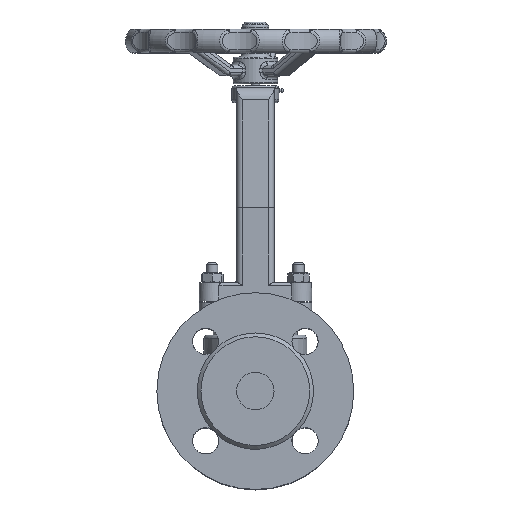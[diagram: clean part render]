
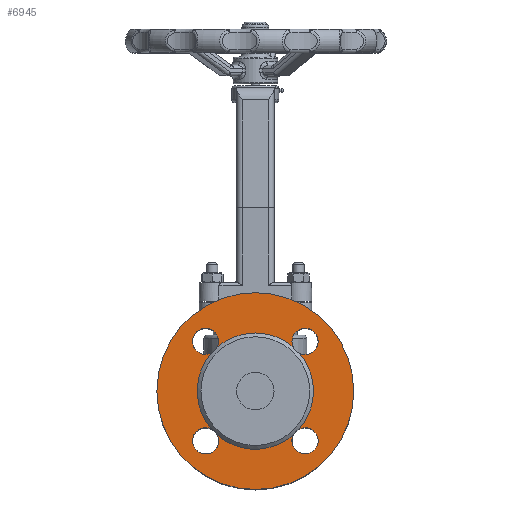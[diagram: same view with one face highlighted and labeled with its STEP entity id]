
A CAD part, top view. The second image highlights one B-rep face of the part: STEP entity #6945.
In plain terms, the highlighted planar face has unit normal (0, 0, 1).
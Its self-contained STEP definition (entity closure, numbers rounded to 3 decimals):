
#6945=ADVANCED_FACE('',(#14985,#14987),#14989,.F.);
#14985=FACE_BOUND('',#14986,.T.);
#14986=EDGE_LOOP('',(#21983));
#14987=FACE_BOUND('',#14988,.T.);
#14988=EDGE_LOOP('',(#21984,#21985,#21986,#21987,#21988,#21989,#21990,#21991,#21992,
#21993,#21994,#21995,#21996));
#14989=PLANE('',#14990);
#14990=AXIS2_PLACEMENT_3D('',#14991,#14992,#14993);
#14991=CARTESIAN_POINT('',(0.,0.,73.));
#14992=DIRECTION('',(0.,0.,-1.));
#14993=DIRECTION('',(0.,1.,0.));
#21983=ORIENTED_EDGE('',*,*,#24770,.T.);
#21984=ORIENTED_EDGE('',*,*,#24773,.T.);
#21985=ORIENTED_EDGE('',*,*,#24995,.F.);
#21986=ORIENTED_EDGE('',*,*,#24780,.T.);
#21987=ORIENTED_EDGE('',*,*,#24782,.T.);
#21988=ORIENTED_EDGE('',*,*,#24996,.F.);
#21989=ORIENTED_EDGE('',*,*,#24775,.T.);
#21990=ORIENTED_EDGE('',*,*,#24774,.T.);
#21991=ORIENTED_EDGE('',*,*,#24997,.F.);
#21992=ORIENTED_EDGE('',*,*,#24998,.F.);
#21993=ORIENTED_EDGE('',*,*,#24778,.T.);
#21994=ORIENTED_EDGE('',*,*,#24777,.T.);
#21995=ORIENTED_EDGE('',*,*,#24999,.F.);
#21996=ORIENTED_EDGE('',*,*,#24771,.T.);
#24770=EDGE_CURVE('',#28409,#28409,#28410,.T.);
#24771=EDGE_CURVE('',#28411,#28412,#28413,.T.);
#24773=EDGE_CURVE('',#28412,#28414,#28416,.T.);
#24774=EDGE_CURVE('',#28417,#28418,#28419,.T.);
#24775=EDGE_CURVE('',#28420,#28417,#28421,.T.);
#24777=EDGE_CURVE('',#28423,#28424,#28425,.T.);
#24778=EDGE_CURVE('',#28426,#28423,#28427,.T.);
#24780=EDGE_CURVE('',#28429,#28430,#28431,.T.);
#24782=EDGE_CURVE('',#28430,#28432,#28434,.T.);
#24995=EDGE_CURVE('',#28429,#28414,#28781,.T.);
#24996=EDGE_CURVE('',#28420,#28432,#28782,.T.);
#24997=EDGE_CURVE('',#28783,#28418,#28784,.T.);
#24998=EDGE_CURVE('',#28426,#28783,#28785,.T.);
#24999=EDGE_CURVE('',#28411,#28424,#28786,.T.);
#28409=VERTEX_POINT('',#56507);
#28410=CIRCLE('',#56508,52.5);
#28411=VERTEX_POINT('',#56512);
#28412=VERTEX_POINT('',#56513);
#28413=CIRCLE('',#56514,7.);
#28414=VERTEX_POINT('',#56518);
#28416=CIRCLE('',#56595,7.);
#28417=VERTEX_POINT('',#56599);
#28418=VERTEX_POINT('',#56600);
#28419=CIRCLE('',#56601,7.);
#28420=VERTEX_POINT('',#56605);
#28421=CIRCLE('',#56606,7.);
#28423=VERTEX_POINT('',#56686);
#28424=VERTEX_POINT('',#56687);
#28425=CIRCLE('',#56688,7.);
#28426=VERTEX_POINT('',#56692);
#28427=CIRCLE('',#56693,7.);
#28429=VERTEX_POINT('',#56773);
#28430=VERTEX_POINT('',#56774);
#28431=CIRCLE('',#56775,7.);
#28432=VERTEX_POINT('',#56779);
#28434=CIRCLE('',#56856,7.);
#28781=CIRCLE('',#58334,31.);
#28782=CIRCLE('',#58338,31.);
#28783=VERTEX_POINT('',#58342);
#28784=CIRCLE('',#58343,31.);
#28785=CIRCLE('',#58347,31.);
#28786=CIRCLE('',#58351,31.);
#56507=CARTESIAN_POINT('',(0.,52.5,73.));
#56508=AXIS2_PLACEMENT_3D('',#56509,#56510,#56511);
#56509=CARTESIAN_POINT('',(0.,0.,73.));
#56510=DIRECTION('',(0.,0.,1.));
#56511=DIRECTION('',(0.,1.,0.));
#56512=CARTESIAN_POINT('',(23.526,-20.188,73.));
#56513=CARTESIAN_POINT('',(26.517,-19.517,73.));
#56514=AXIS2_PLACEMENT_3D('',#56515,#56516,#56517);
#56515=CARTESIAN_POINT('',(26.517,-26.517,73.));
#56516=DIRECTION('',(0.,0.,-1.));
#56517=DIRECTION('',(-0.427,0.904,0.));
#56518=CARTESIAN_POINT('',(20.188,-23.526,73.));
#56595=AXIS2_PLACEMENT_3D('',#56596,#56597,#56598);
#56596=CARTESIAN_POINT('',(26.517,-26.517,73.));
#56597=DIRECTION('',(0.,0.,-1.));
#56598=DIRECTION('',(0.,1.,0.));
#56599=CARTESIAN_POINT('',(-26.517,19.517,73.));
#56600=CARTESIAN_POINT('',(-20.188,23.526,73.));
#56601=AXIS2_PLACEMENT_3D('',#56602,#56603,#56604);
#56602=CARTESIAN_POINT('',(-26.517,26.517,73.));
#56603=DIRECTION('',(0.,0.,-1.));
#56604=DIRECTION('',(0.,-1.,0.));
#56605=CARTESIAN_POINT('',(-23.526,20.188,73.));
#56606=AXIS2_PLACEMENT_3D('',#56607,#56608,#56609);
#56607=CARTESIAN_POINT('',(-26.517,26.517,73.));
#56608=DIRECTION('',(0.,0.,-1.));
#56609=DIRECTION('',(0.427,-0.904,0.));
#56686=CARTESIAN_POINT('',(19.517,26.517,73.));
#56687=CARTESIAN_POINT('',(23.526,20.188,73.));
#56688=AXIS2_PLACEMENT_3D('',#56689,#56690,#56691);
#56689=CARTESIAN_POINT('',(26.517,26.517,73.));
#56690=DIRECTION('',(0.,0.,-1.));
#56691=DIRECTION('',(-1.,0.,0.));
#56692=CARTESIAN_POINT('',(20.188,23.526,73.));
#56693=AXIS2_PLACEMENT_3D('',#56694,#56695,#56696);
#56694=CARTESIAN_POINT('',(26.517,26.517,73.));
#56695=DIRECTION('',(0.,0.,-1.));
#56696=DIRECTION('',(-0.904,-0.427,0.));
#56773=CARTESIAN_POINT('',(-20.188,-23.526,73.));
#56774=CARTESIAN_POINT('',(-19.517,-26.517,73.));
#56775=AXIS2_PLACEMENT_3D('',#56776,#56777,#56778);
#56776=CARTESIAN_POINT('',(-26.517,-26.517,73.));
#56777=DIRECTION('',(0.,0.,-1.));
#56778=DIRECTION('',(0.904,0.427,0.));
#56779=CARTESIAN_POINT('',(-23.526,-20.188,73.));
#56856=AXIS2_PLACEMENT_3D('',#56857,#56858,#56859);
#56857=CARTESIAN_POINT('',(-26.517,-26.517,73.));
#56858=DIRECTION('',(0.,0.,-1.));
#56859=DIRECTION('',(1.,0.,0.));
#58334=AXIS2_PLACEMENT_3D('',#58335,#58336,#58337);
#58335=CARTESIAN_POINT('',(0.,0.,73.));
#58336=DIRECTION('',(0.,0.,1.));
#58337=DIRECTION('',(-0.651,-0.759,0.));
#58338=AXIS2_PLACEMENT_3D('',#58339,#58340,#58341);
#58339=CARTESIAN_POINT('',(0.,0.,73.));
#58340=DIRECTION('',(0.,0.,1.));
#58341=DIRECTION('',(-0.759,0.651,0.));
#58342=CARTESIAN_POINT('',(0.,31.,73.));
#58343=AXIS2_PLACEMENT_3D('',#58344,#58345,#58346);
#58344=CARTESIAN_POINT('',(0.,0.,73.));
#58345=DIRECTION('',(0.,0.,1.));
#58346=DIRECTION('',(0.,1.,0.));
#58347=AXIS2_PLACEMENT_3D('',#58348,#58349,#58350);
#58348=CARTESIAN_POINT('',(0.,0.,73.));
#58349=DIRECTION('',(0.,0.,1.));
#58350=DIRECTION('',(0.651,0.759,0.));
#58351=AXIS2_PLACEMENT_3D('',#58352,#58353,#58354);
#58352=CARTESIAN_POINT('',(0.,0.,73.));
#58353=DIRECTION('',(0.,0.,1.));
#58354=DIRECTION('',(0.759,-0.651,0.));
